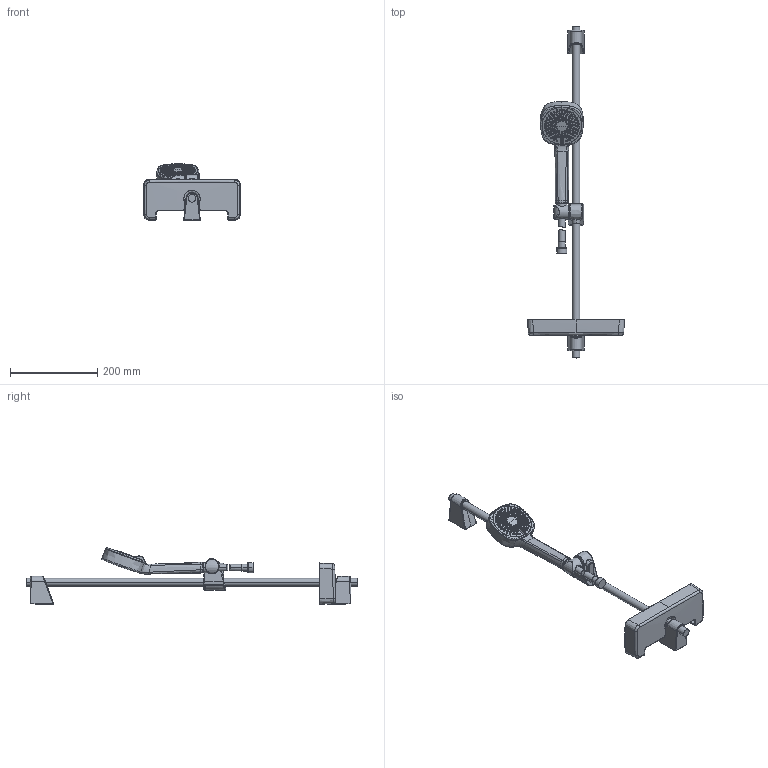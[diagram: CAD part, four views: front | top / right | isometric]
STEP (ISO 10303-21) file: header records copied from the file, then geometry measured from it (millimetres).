
FILE_DESCRIPTION (( 'STEP AP203' ), '1' );
FILE_NAME ('554+44770131.STEP', '2018-09-12T04:41:30', ( '' ), ( '' ), 'SwSTEP 2.0', 'SolidWorks 2016', '' );
FILE_SCHEMA (( 'CONFIG_CONTROL_DESIGN' ));
Products named in the file (1): 554+44770131
Bounding box: 221.91 x 760 x 128.94 mm (x, y, z)
Volume: 941210.5 mm3; surface area: 234095.9 mm2
Topology: 13 solids, 21 shells, 872 faces, 2002 edges, 1251 vertices
Faces by surface type: bspline 489, plane 165, torus 92, cylinder 63, sphere 39, cone 24
Entity records: 62899 total; most frequent: CARTESIAN_POINT 46705, ORIENTED_EDGE 3942, DIRECTION 2462, EDGE_CURVE 1971, VERTEX_POINT 1245, AXIS2_PLACEMENT_3D 1174, B_SPLINE_CURVE_WITH_KNOTS 1002, EDGE_LOOP 976
